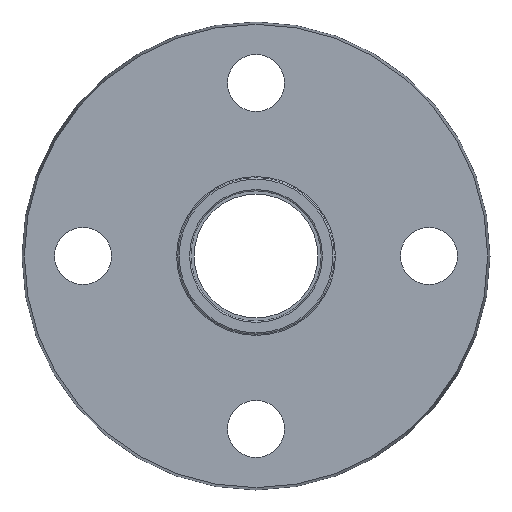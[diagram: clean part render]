
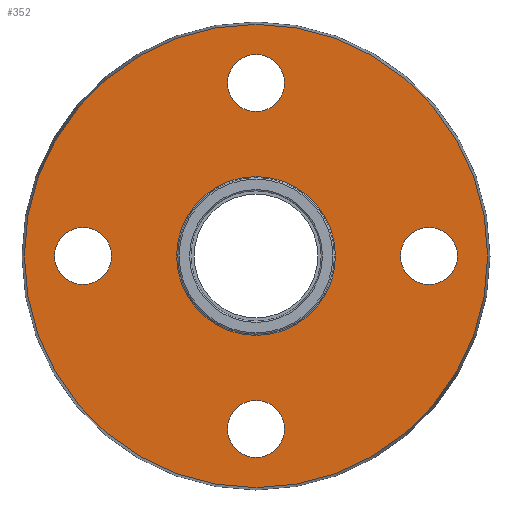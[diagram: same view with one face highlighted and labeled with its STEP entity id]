
A CAD part, left-side view. The second image highlights one B-rep face of the part: STEP entity #352.
In plain terms, the highlighted planar face has unit normal (-1, 0, 0).
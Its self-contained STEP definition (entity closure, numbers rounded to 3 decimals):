
#28=PLANE('',#409);
#55=FACE_BOUND('',#141,.T.);
#56=FACE_BOUND('',#142,.T.);
#57=FACE_BOUND('',#143,.T.);
#58=FACE_BOUND('',#144,.T.);
#59=FACE_BOUND('',#145,.T.);
#87=FACE_OUTER_BOUND('',#140,.T.);
#140=EDGE_LOOP('',(#300));
#141=EDGE_LOOP('',(#301));
#142=EDGE_LOOP('',(#302));
#143=EDGE_LOOP('',(#303));
#144=EDGE_LOOP('',(#304));
#145=EDGE_LOOP('',(#305));
#184=CIRCLE('',#408,19.52);
#185=CIRCLE('',#410,56.925);
#186=CIRCLE('',#411,7.);
#187=CIRCLE('',#412,7.);
#188=CIRCLE('',#413,7.);
#189=CIRCLE('',#414,7.);
#216=VERTEX_POINT('',#617);
#217=VERTEX_POINT('',#620);
#218=VERTEX_POINT('',#622);
#219=VERTEX_POINT('',#624);
#220=VERTEX_POINT('',#626);
#221=VERTEX_POINT('',#628);
#248=EDGE_CURVE('',#216,#216,#184,.T.);
#249=EDGE_CURVE('',#217,#217,#185,.T.);
#250=EDGE_CURVE('',#218,#218,#186,.T.);
#251=EDGE_CURVE('',#219,#219,#187,.T.);
#252=EDGE_CURVE('',#220,#220,#188,.T.);
#253=EDGE_CURVE('',#221,#221,#189,.T.);
#300=ORIENTED_EDGE('',*,*,#249,.T.);
#301=ORIENTED_EDGE('',*,*,#250,.T.);
#302=ORIENTED_EDGE('',*,*,#251,.T.);
#303=ORIENTED_EDGE('',*,*,#252,.T.);
#304=ORIENTED_EDGE('',*,*,#253,.T.);
#305=ORIENTED_EDGE('',*,*,#248,.F.);
#352=ADVANCED_FACE('',(#87,#55,#56,#57,#58,#59),#28,.T.);
#408=AXIS2_PLACEMENT_3D('',#618,#517,#518);
#409=AXIS2_PLACEMENT_3D('',#619,#519,#520);
#410=AXIS2_PLACEMENT_3D('',#621,#521,#522);
#411=AXIS2_PLACEMENT_3D('',#623,#523,#524);
#412=AXIS2_PLACEMENT_3D('',#625,#525,#526);
#413=AXIS2_PLACEMENT_3D('',#627,#527,#528);
#414=AXIS2_PLACEMENT_3D('',#629,#529,#530);
#517=DIRECTION('center_axis',(-1.,0.,0.));
#518=DIRECTION('ref_axis',(0.,1.,0.));
#519=DIRECTION('center_axis',(-1.,0.,0.));
#520=DIRECTION('ref_axis',(0.,0.,1.));
#521=DIRECTION('center_axis',(-1.,0.,0.));
#522=DIRECTION('ref_axis',(0.,0.,1.));
#523=DIRECTION('center_axis',(1.,0.,0.));
#524=DIRECTION('ref_axis',(0.,0.,1.));
#525=DIRECTION('center_axis',(1.,0.,0.));
#526=DIRECTION('ref_axis',(0.,1.,0.));
#527=DIRECTION('center_axis',(1.,0.,0.));
#528=DIRECTION('ref_axis',(0.,0.,-1.));
#529=DIRECTION('center_axis',(1.,0.,0.));
#530=DIRECTION('ref_axis',(0.,-1.,0.));
#617=CARTESIAN_POINT('',(-2.5,-19.52,0.));
#618=CARTESIAN_POINT('Origin',(-2.5,0.,0.));
#619=CARTESIAN_POINT('Origin',(-2.5,-19.2,0.));
#620=CARTESIAN_POINT('',(-2.5,-56.925,0.));
#621=CARTESIAN_POINT('Origin',(-2.5,0.,0.));
#622=CARTESIAN_POINT('',(-2.5,42.5,-7.));
#623=CARTESIAN_POINT('Origin',(-2.5,42.5,0.));
#624=CARTESIAN_POINT('',(-2.5,-7.,-42.5));
#625=CARTESIAN_POINT('Origin',(-2.5,0.,-42.5));
#626=CARTESIAN_POINT('',(-2.5,-42.5,7.));
#627=CARTESIAN_POINT('Origin',(-2.5,-42.5,0.));
#628=CARTESIAN_POINT('',(-2.5,7.,42.5));
#629=CARTESIAN_POINT('Origin',(-2.5,0.,42.5));
